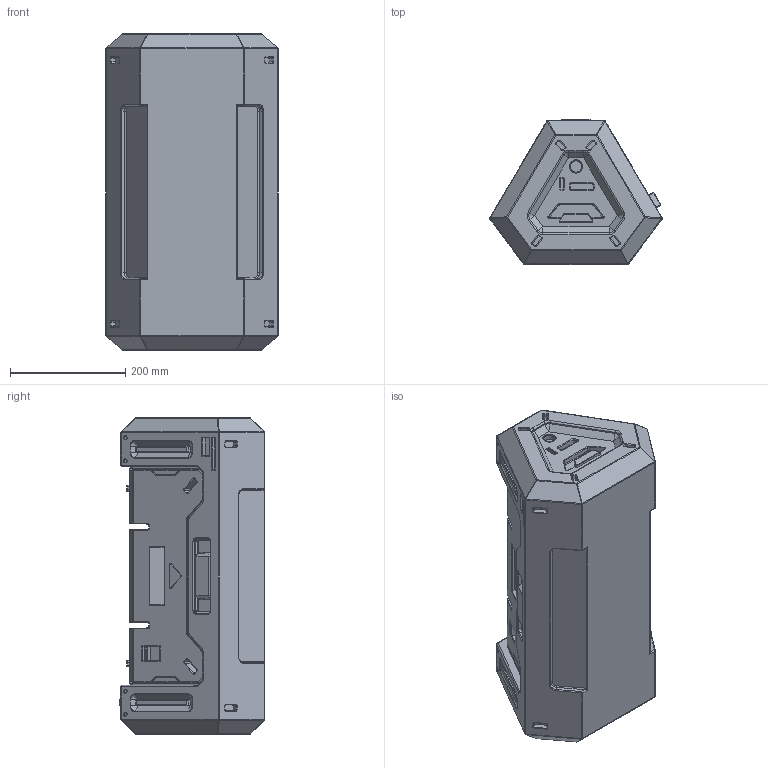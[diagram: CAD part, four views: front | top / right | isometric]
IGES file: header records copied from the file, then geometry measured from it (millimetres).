
Global section: file name: abject 6 v6; native system: unknown; preprocessor: unknown; author: unknown; organization: unknown; date: 20220627.135155; units: centimetre
Bounding box: 299.09 x 253 x 550 mm (x, y, z)
Volume: 25423435.8 mm3; surface area: 703898 mm2
Topology: 1 solids, 1 shells, 1449 faces, 3404 edges, 1982 vertices
Faces by surface type: bspline 1449
